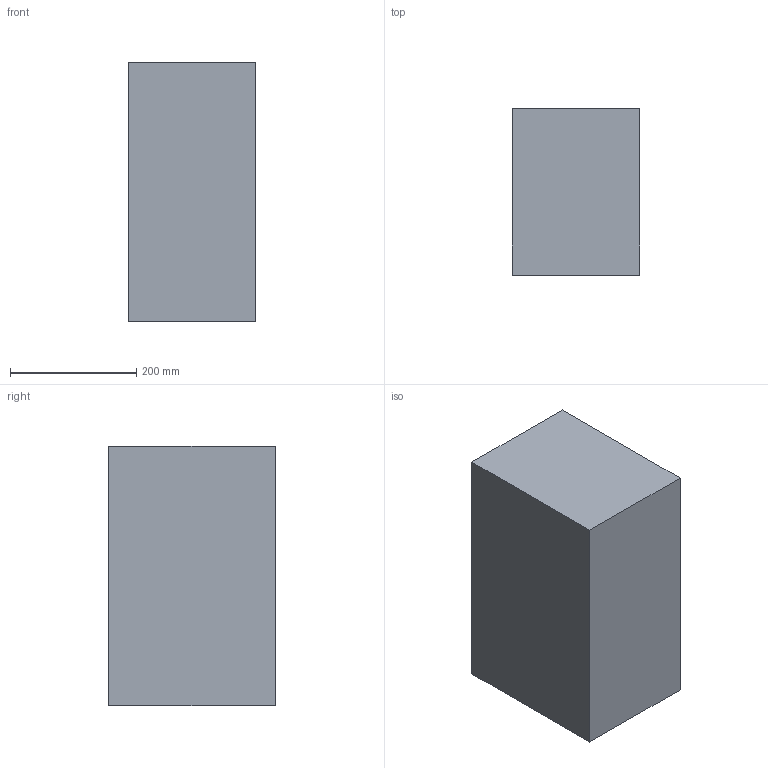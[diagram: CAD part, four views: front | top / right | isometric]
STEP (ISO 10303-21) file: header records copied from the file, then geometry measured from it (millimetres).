
FILE_DESCRIPTION (( 'STEP AP214' ), '1' );
FILE_NAME ('V250 PP BOTTOM TUB 2-5-2024.STEP', '2024-02-18T22:59:25', ( '' ), ( '' ), 'SwSTEP 2.0', 'SolidWorks 2021', '' );
FILE_SCHEMA (( 'AUTOMOTIVE_DESIGN' ));
Length unit declared in the file: millimetre
Products named in the file (1): V250 PP BOTTOM TUB 2-5-2024
Bounding box: 202.04 x 263.66 x 410.26 mm (x, y, z)
Volume: 7397446.4 mm3; surface area: 740820.8 mm2
Topology: 1 solids, 1 shells, 205 faces, 493 edges, 285 vertices
Faces by surface type: bspline 162, plane 43
Entity records: 8318 total; most frequent: CARTESIAN_POINT 4997, ORIENTED_EDGE 974, EDGE_CURVE 487, DIRECTION 287, VERTEX_POINT 285, EDGE_LOOP 206, ADVANCED_FACE 205, FACE_OUTER_BOUND 205
